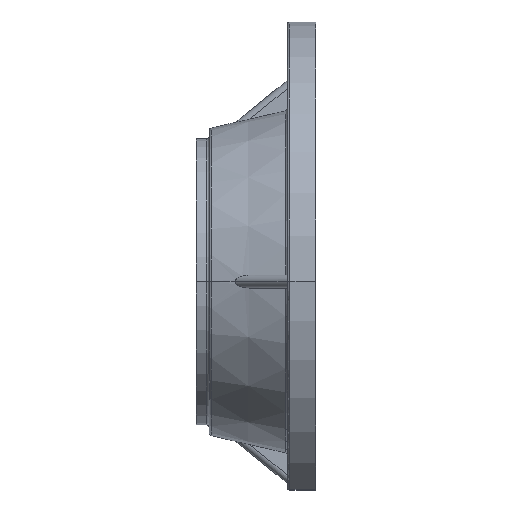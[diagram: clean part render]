
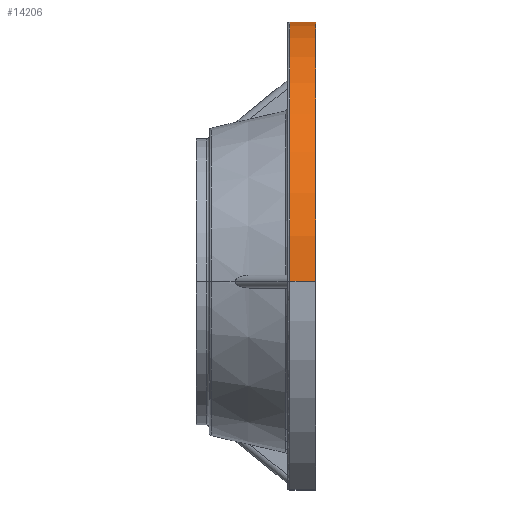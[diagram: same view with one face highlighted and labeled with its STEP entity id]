
A CAD part, top view. The second image highlights one B-rep face of the part: STEP entity #14206.
In plain terms, the highlighted cylindrical face has radius 100 mm (diameter 200 mm), a partial arc.
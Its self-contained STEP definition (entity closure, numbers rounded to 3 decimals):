
#176 = EDGE_CURVE ( 'NONE', #4532, #4529, #6267, .T. ) ;
#177 = EDGE_CURVE ( 'NONE', #4529, #4530, #5987, .T. ) ;
#178 = EDGE_CURVE ( 'NONE', #4532, #4531, #5988, .T. ) ;
#179 = EDGE_CURVE ( 'NONE', #4531, #4530, #6276, .T. ) ;
#2758 = CARTESIAN_POINT ( 'NONE',  ( 36., 0., 100. ) ) ;
#2759 = CARTESIAN_POINT ( 'NONE',  ( 36., 0., -100. ) ) ;
#2760 = CARTESIAN_POINT ( 'NONE',  ( 46., 0., -100. ) ) ;
#2761 = CARTESIAN_POINT ( 'NONE',  ( 46., 0., 100. ) ) ;
#3591 = EDGE_LOOP ( 'NONE', ( #4865, #4867, #4866, #4868 ) ) ;
#4529 = VERTEX_POINT ( 'NONE', #2758 ) ;
#4530 = VERTEX_POINT ( 'NONE', #2759 ) ;
#4531 = VERTEX_POINT ( 'NONE', #2760 ) ;
#4532 = VERTEX_POINT ( 'NONE', #2761 ) ;
#4865 = ORIENTED_EDGE ( 'NONE', *, *, #178, .T. ) ;
#4866 = ORIENTED_EDGE ( 'NONE', *, *, #177, .F. ) ;
#4867 = ORIENTED_EDGE ( 'NONE', *, *, #179, .T. ) ;
#4868 = ORIENTED_EDGE ( 'NONE', *, *, #176, .F. ) ;
#5987 = CIRCLE ( 'NONE', #6502, 100. ) ;
#5988 = CIRCLE ( 'NONE', #6467, 100. ) ;
#6266 = CARTESIAN_POINT ( 'NONE',  ( 36., 0., 0. ) ) ;
#6267 = LINE ( 'NONE', #6268, #6479 ) ;
#6268 = CARTESIAN_POINT ( 'NONE',  ( 0., 0., 100. ) ) ;
#6269 = DIRECTION ( 'NONE',  ( -1., 0., 0. ) ) ;
#6270 = DIRECTION ( 'NONE',  ( -1., 0., 0. ) ) ;
#6271 = DIRECTION ( 'NONE',  ( 0., 0., 1. ) ) ;
#6272 = CARTESIAN_POINT ( 'NONE',  ( 46., 0., 0. ) ) ;
#6273 = DIRECTION ( 'NONE',  ( -1., 0., 0. ) ) ;
#6274 = DIRECTION ( 'NONE',  ( 0., 0., 1. ) ) ;
#6276 = LINE ( 'NONE', #6277, #6499 ) ;
#6277 = CARTESIAN_POINT ( 'NONE',  ( 0., 0., -100. ) ) ;
#6278 = DIRECTION ( 'NONE',  ( -1., 0., 0. ) ) ;
#6467 = AXIS2_PLACEMENT_3D ( 'NONE', #6272, #6273, #6274 ) ;
#6479 = VECTOR ( 'NONE', #6269, 1000. ) ;
#6499 = VECTOR ( 'NONE', #6278, 1000. ) ;
#6502 = AXIS2_PLACEMENT_3D ( 'NONE', #6266, #6270, #6271 ) ;
#9033 = CARTESIAN_POINT ( 'NONE',  ( 0., 0., 0. ) ) ;
#9034 = DIRECTION ( 'NONE',  ( -1., 0., 0. ) ) ;
#9035 = DIRECTION ( 'NONE',  ( 0., 0., 1. ) ) ;
#9484 = AXIS2_PLACEMENT_3D ( 'NONE', #9033, #9034, #9035 ) ;
#9485 = FACE_OUTER_BOUND ( 'NONE', #3591, .T. ) ;
#9488 = CYLINDRICAL_SURFACE ( 'NONE', #9484, 100. ) ;
#14206 = ADVANCED_FACE ( 'NONE', ( #9485 ), #9488, .T. ) ;
